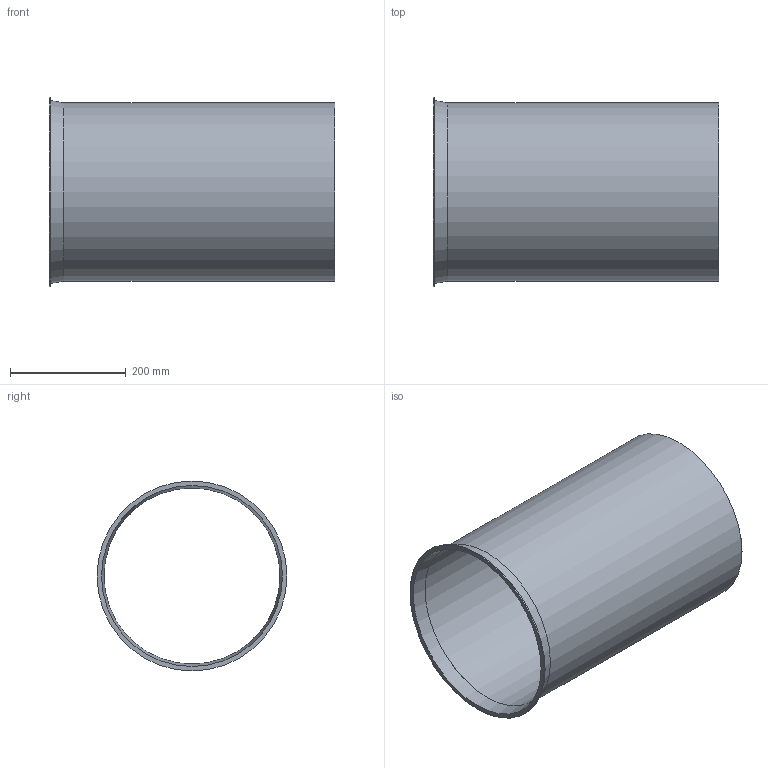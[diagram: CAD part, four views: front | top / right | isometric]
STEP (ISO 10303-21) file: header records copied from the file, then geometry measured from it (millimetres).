
FILE_DESCRIPTION((''),'2;1');
FILE_NAME('U:\Wolfgang\Marcel-3D\fertig\Kapitel 1\3111007.stp','2010-05-31T11:40:24',('TK2'),(''),'Autodesk Inventor 2010','Autodesk Inventor 2010','');
FILE_SCHEMA(('AUTOMOTIVE_DESIGN { 1 0 10303 214 1 1 1 1 }'));
Length unit declared in the file: millimetre
Products named in the file (1): 3111007
Bounding box: 493 x 328 x 328 mm (x, y, z)
Volume: 961069.8 mm3; surface area: 965042.5 mm2
Topology: 1 solids, 1 shells, 8 faces, 14 edges, 9 vertices
Faces by surface type: cylinder 3, plane 3, cone 2
Full cylindrical faces by diameter (mm): 304 x1, 308 x1, 328 x1
Entity records: 194 total; most frequent: DIRECTION 34, CARTESIAN_POINT 25, AXIS2_PLACEMENT_3D 17, ORIENTED_EDGE 16, EDGE_LOOP 16, VERTEX_POINT 8, CIRCLE 8, EDGE_CURVE 8
